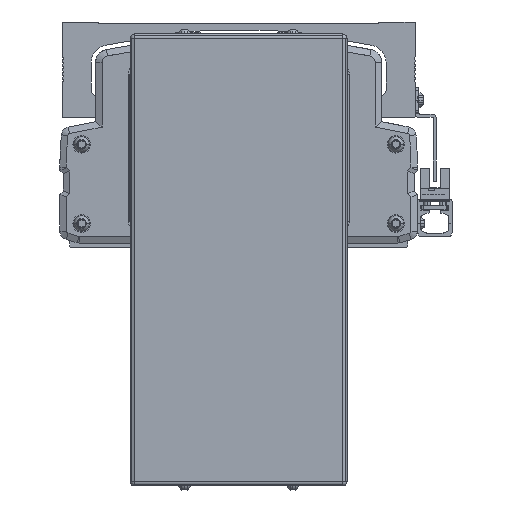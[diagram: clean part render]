
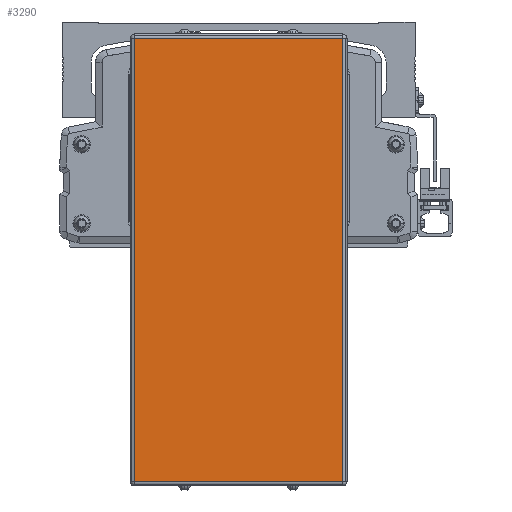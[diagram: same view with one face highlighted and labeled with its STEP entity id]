
A CAD part, front view. The second image highlights one B-rep face of the part: STEP entity #3290.
In plain terms, the highlighted planar face has unit normal (0, -1, 0).
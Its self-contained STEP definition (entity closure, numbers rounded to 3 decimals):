
#3290=ADVANCED_FACE('',(#9065),#9066,.T.);
#9065=FACE_OUTER_BOUND('',#17983,.T.);
#9066=PLANE('',#17984);
#17983=EDGE_LOOP('',(#29179,#29180,#29181,#29182));
#17984=AXIS2_PLACEMENT_3D('',#29183,#29184,#29185);
#29179=ORIENTED_EDGE('',*,*,#54449,.F.);
#29180=ORIENTED_EDGE('',*,*,#54450,.F.);
#29181=ORIENTED_EDGE('',*,*,#54451,.F.);
#29182=ORIENTED_EDGE('',*,*,#54452,.F.);
#29183=CARTESIAN_POINT('',(-600.,-272.778,-57.8));
#29184=DIRECTION('',(0.,-1.0,0.));
#29185=DIRECTION('',(0.,0.,-1.0));
#54449=EDGE_CURVE('',#64762,#64763,#64764,.T.);
#54450=EDGE_CURVE('',#64765,#64762,#64766,.T.);
#54451=EDGE_CURVE('',#64767,#64765,#64768,.T.);
#54452=EDGE_CURVE('',#64763,#64767,#64769,.T.);
#64762=VERTEX_POINT('',#79682);
#64763=VERTEX_POINT('',#79683);
#64764=LINE('',#79684,#79685);
#64765=VERTEX_POINT('',#79686);
#64766=LINE('',#79687,#79688);
#64767=VERTEX_POINT('',#79689);
#64768=LINE('',#79690,#79691);
#64769=LINE('',#79692,#79693);
#79682=CARTESIAN_POINT('',(-648.,-272.778,44.5));
#79683=CARTESIAN_POINT('',(-552.,-272.778,44.5));
#79684=CARTESIAN_POINT('',(-600.,-272.778,44.5));
#79685=VECTOR('',#101041,10.0);
#79686=CARTESIAN_POINT('',(-648.,-272.778,-160.1));
#79687=CARTESIAN_POINT('',(-648.,-272.778,-57.8));
#79688=VECTOR('',#101042,10.0);
#79689=CARTESIAN_POINT('',(-552.,-272.778,-160.1));
#79690=CARTESIAN_POINT('',(-600.,-272.778,-160.1));
#79691=VECTOR('',#101043,10.0);
#79692=CARTESIAN_POINT('',(-552.,-272.778,-57.8));
#79693=VECTOR('',#101044,10.0);
#101041=DIRECTION('',(1.0,0.,0.));
#101042=DIRECTION('',(0.,0.,1.0));
#101043=DIRECTION('',(-1.0,0.,0.));
#101044=DIRECTION('',(0.,0.,-1.0));
